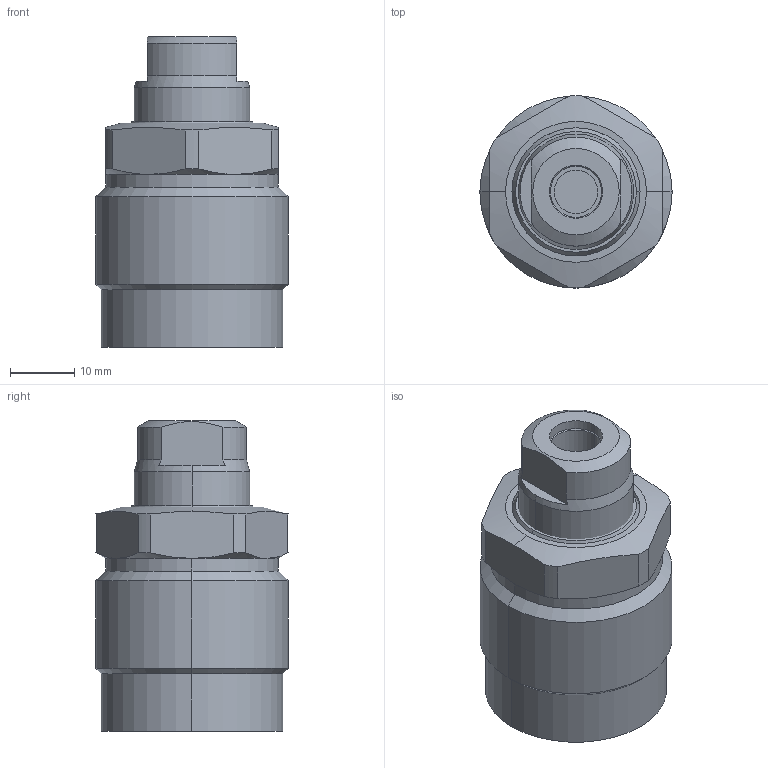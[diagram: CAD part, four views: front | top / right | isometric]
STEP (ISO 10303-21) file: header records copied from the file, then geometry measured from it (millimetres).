
FILE_DESCRIPTION (( 'STEP AP203' ), '1' );
FILE_NAME ('650301-AS.step', '2016-11-02T03:14:09', ( 'wxp' ), ( '' ), 'SwSTEP 2.0', 'SolidWorks 2011', '' );
FILE_SCHEMA (( 'CONFIG_CONTROL_DESIGN' ));
Length unit declared in the file: millimetre
Products named in the file (3): 650301-AS; 葩璃 650301-AS.sldasm-Part-2^650301-AS; 葩璃 650301-AS.sldasm-Part-1^650301-AS
Assembly tree (2 placements, depth 2):
  650301-AS
    葩璃 650301-AS.sldasm-Part-1^650301-AS
    葩璃 650301-AS.sldasm-Part-2^650301-AS
Bounding box: 30 x 30 x 48.5 mm (x, y, z)
Volume: 25625.7 mm3; surface area: 6555.5 mm2
Topology: 2 solids, 2 shells, 84 faces, 194 edges, 121 vertices
Faces by surface type: cylinder 34, cone 22, plane 22, torus 6
Entity records: 2773 total; most frequent: CARTESIAN_POINT 558, DIRECTION 430, ORIENTED_EDGE 384, EDGE_CURVE 192, AXIS2_PLACEMENT_3D 185, VERTEX_POINT 121, CIRCLE 96, EDGE_LOOP 93
